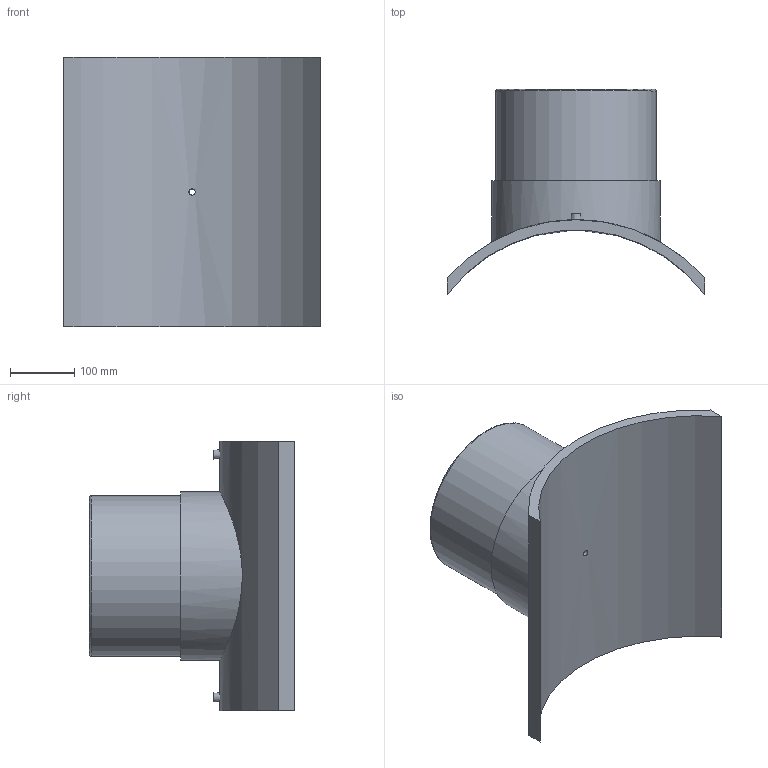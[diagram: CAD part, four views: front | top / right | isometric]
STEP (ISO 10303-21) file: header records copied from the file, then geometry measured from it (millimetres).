
FILE_DESCRIPTION(/* description */ ('PLASSON BRANCH SADDLE 500x250'),/* implementation_level */ '2;1');
FILE_NAME(/* name */ 'C:\Dropbox\KIMPROJECTS-Inventor 2019\99-16-3568-Processing\ElectroFusion Fittings\495803\stp\495803630250T.stp',/* time_stamp */ '2024-04-04T11:49:03+02:00',/* author */ ('KIM'),/* organization */ (''),/* preprocessor_version */ 'ST-DEVELOPER v17.2',/* originating_system */ 'Autodesk Inventor 2019',/* authorisation */ '');
FILE_SCHEMA (('AUTOMOTIVE_DESIGN { 1 0 10303 214 3 1 1 }'));
Length unit declared in the file: millimetre
Products named in the file (1): 495803630250T
Bounding box: 400 x 319 x 420 mm (x, y, z)
Volume: 7284158.5 mm3; surface area: 738042.1 mm2
Topology: 1 solids, 1 shells, 29 faces, 60 edges, 43 vertices
Faces by surface type: plane 13, cylinder 12, torus 2, cone 2
Full cylindrical faces by diameter (mm): 4 x2, 9.6 x1, 10 x2, 16 x1, 200 x1, 250 x1, 262.5 x1
Entity records: 1086 total; most frequent: CARTESIAN_POINT 400, DIRECTION 139, ORIENTED_EDGE 120, EDGE_CURVE 60, AXIS2_PLACEMENT_3D 60, VERTEX_POINT 43, EDGE_LOOP 41, CIRCLE 30
